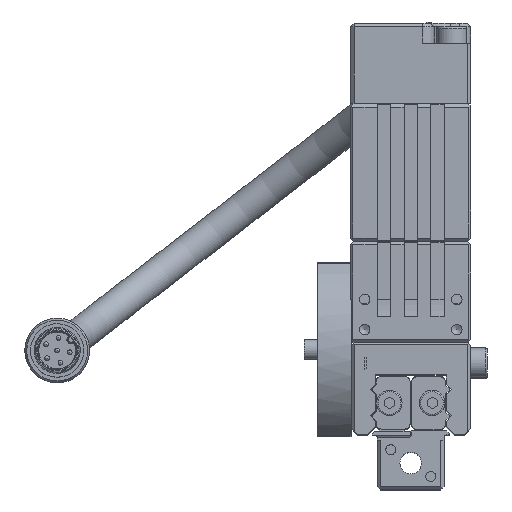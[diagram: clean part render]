
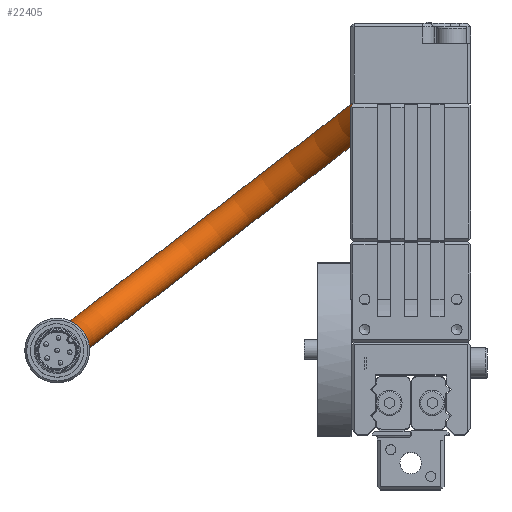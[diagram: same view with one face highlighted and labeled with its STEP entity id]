
A CAD part, top view. The second image highlights one B-rep face of the part: STEP entity #22405.
In plain terms, the highlighted toroidal (fillet/blend) face has major radius 35.179 mm and minor radius 2.5 mm.
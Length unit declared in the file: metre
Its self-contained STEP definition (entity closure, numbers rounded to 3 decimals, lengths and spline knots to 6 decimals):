
#855=TOROIDAL_SURFACE('',#23869,0.035179,0.0025);
#1072=FACE_BOUND('',#3025,.T.);
#1677=FACE_OUTER_BOUND('',#3024,.T.);
#3024=EDGE_LOOP('',(#15101));
#3025=EDGE_LOOP('',(#15102));
#4374=CIRCLE('',#23868,0.0025);
#4375=CIRCLE('',#23870,0.0025);
#9114=VERTEX_POINT('',#32164);
#9115=VERTEX_POINT('',#32167);
#11364=EDGE_CURVE('',#9114,#9114,#4374,.T.);
#11365=EDGE_CURVE('',#9115,#9115,#4375,.T.);
#15101=ORIENTED_EDGE('',*,*,#11364,.F.);
#15102=ORIENTED_EDGE('',*,*,#11365,.T.);
#22405=ADVANCED_FACE('',(#1677,#1072),#855,.T.);
#23868=AXIS2_PLACEMENT_3D('',#32165,#26538,#26539);
#23869=AXIS2_PLACEMENT_3D('',#32166,#26540,#26541);
#23870=AXIS2_PLACEMENT_3D('',#32168,#26542,#26543);
#26538=DIRECTION('center_axis',(0.,0.,
1.));
#26539=DIRECTION('ref_axis',(-0.261,0.965,0.));
#26540=DIRECTION('center_axis',(0.61,-0.792,0.));
#26541=DIRECTION('ref_axis',(0.,0.,-1.));
#26542=DIRECTION('center_axis',(0.,0.,
-1.));
#26543=DIRECTION('ref_axis',(-0.867,0.498,0.));
#32164=CARTESIAN_POINT('',(0.370403,0.235223,-0.178238));
#32165=CARTESIAN_POINT('Origin',(0.369752,0.237636,-0.178238));
#32166=CARTESIAN_POINT('Origin',(0.341889,0.21616,-0.178238));
#32167=CARTESIAN_POINT('',(0.316194,0.193439,-0.178238));
#32168=CARTESIAN_POINT('Origin',(0.314026,0.194684,-0.178238));
